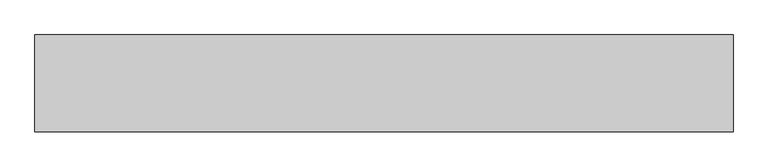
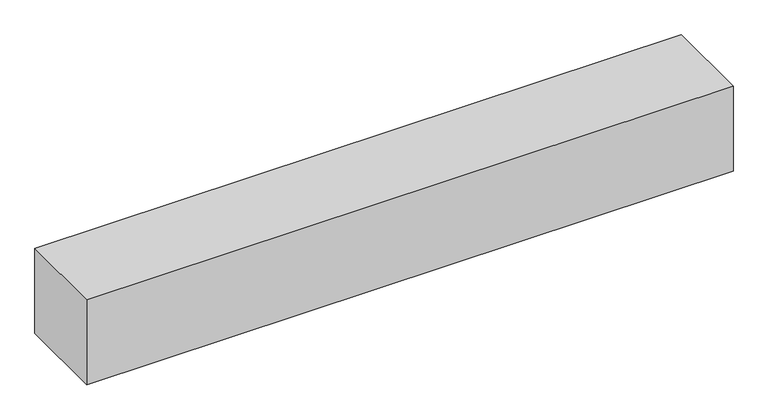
"""IFC4 building model written with IfcOpenShell, lengths in millimetres: proxy geometry, 機械基礎(電気) : 機械基礎(電気)."""

from ifc_helpers import new_model, si_unit, origin, origin_with_axes, place, context, project, spatial, polyline, outline, extrude, source, transform, mapped, element, save


def specialty_equipment_e7cf3806(model_context):
    return source(origin(), model_context, "Body", "SweptSolid", [
        extrude(outline(polyline([(1800.0, -250.0), (-1800.0, -250.0), (-1800.0, 250.0), (1800.0, 250.0), (1800.0, -250.0)])), origin_with_axes(), (0.0, 0.0, 1.0), 500.0),
    ])


if __name__ == "__main__":
    model = new_model("IFC4")
    model_context = context("Model", 3, world=origin())
    ifc_project = project(units=[si_unit("LENGTHUNIT", "METRE", prefix="MILLI")], contexts=[model_context])
    site = spatial("IfcSite", under=ifc_project)
    building = spatial("IfcBuilding", under=site)
    placement = place(None, origin())
    specialty_equipment_shape = specialty_equipment_e7cf3806(model_context)
    element("IfcBuildingElementProxy", 1, Name="機械基礎(電気) : 機械基礎(電気)", ObjectType="機械基礎(電気) : 機械基礎(電気)", at=placement, inside=building, context=model_context, shape_type="MappedRepresentation", body=[
        mapped(specialty_equipment_shape, transform((0.0, 0.0, 0.0), x_axis=(1.0, 0.0, 0.0), y_axis=(0.0, 1.0, 0.0), z_axis=(0.0, 0.0, 1.0))),
    ])
    save(model, "model.ifc")
